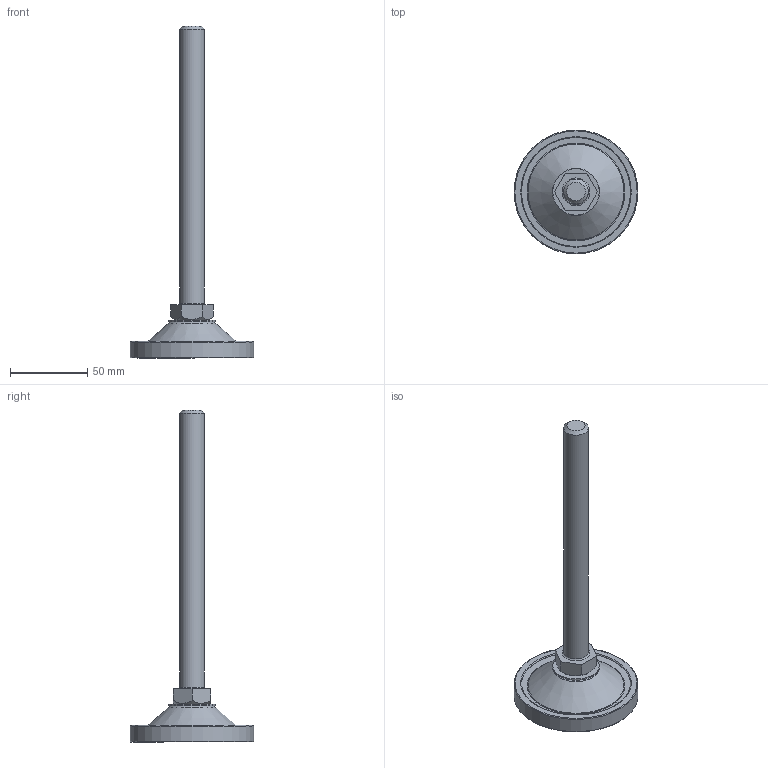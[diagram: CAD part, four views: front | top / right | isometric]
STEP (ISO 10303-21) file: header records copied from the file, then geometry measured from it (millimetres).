
FILE_DESCRIPTION(/* description */ (''),/* implementation_level */ '2;1');
FILE_NAME(/* name */ 'D:\조절자\PFR\STEP\PFR-M16-180L.stp',/* time_stamp */ '2016-03-14T15:10:16+09:00',/* author */ ('GS-DT-1-001'),/* organization */ (''),/* preprocessor_version */ 'ST-DEVELOPER v15.6',/* originating_system */ 'Autodesk Inventor LT ',/* authorisation */ '');
FILE_SCHEMA (('AUTOMOTIVE_DESIGN { 1 0 10303 214 3 1 1 }'));
Length unit declared in the file: millimetre
Products named in the file (1): PFR-M16-180L
Bounding box: 80 x 80 x 214.5 mm (x, y, z)
Volume: 87503.7 mm3; surface area: 38909.9 mm2
Topology: 5 solids, 5 shells, 76 faces, 137 edges, 83 vertices
Faces by surface type: plane 28, torus 24, cone 14, cylinder 10
Full cylindrical faces by diameter (mm): 6.912 x1, 8 x1, 8.2 x1, 8.3 x1, 16 x2, 30 x1, 74 x1, 74.4 x1, 80 x1
Entity records: 1584 total; most frequent: DIRECTION 298, CARTESIAN_POINT 251, ORIENTED_EDGE 168, AXIS2_PLACEMENT_3D 143, EDGE_LOOP 140, EDGE_CURVE 84, VERTEX_POINT 78, FACE_OUTER_BOUND 76
